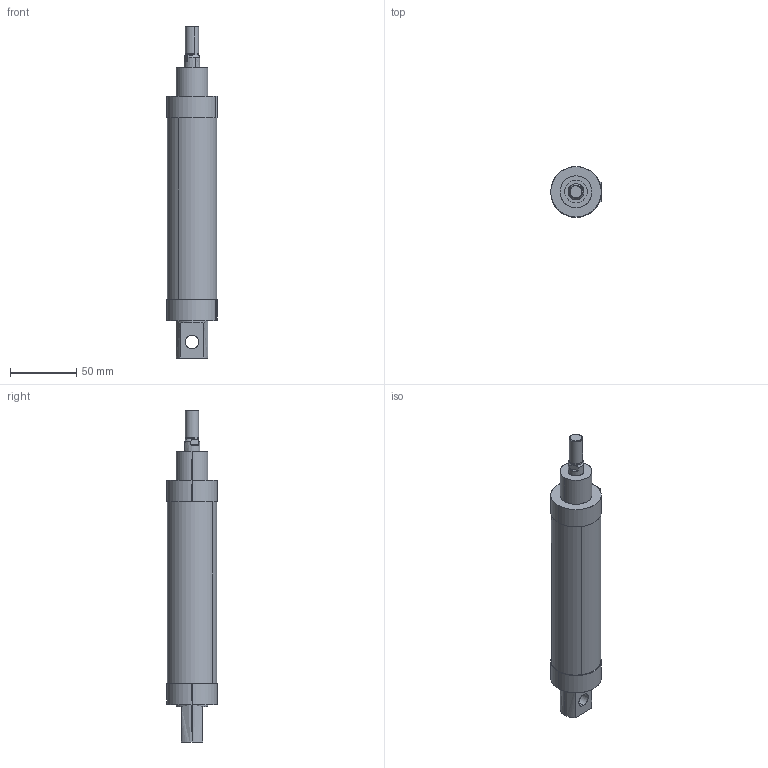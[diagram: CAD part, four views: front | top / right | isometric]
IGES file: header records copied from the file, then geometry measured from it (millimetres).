
Start section: SolidWorks IGES file using analytic representation for surfaces
Global section: file name: D:\ARICA 3D ÇÝZÝMLER\3D IGES\MAL-S\MAL6432S-32\MAL6432S-32X100-CYLINDER.IGS; native system: SolidWorks 2013; preprocessor: SolidWorks 2013; author: user; date: 150922.155135; units: millimetre
Bounding box: 38 x 38 x 250 mm (x, y, z)
Surface area: 61455.1 mm2 (no closed solid volume)
Topology: 0 solids, 0 shells, 108 faces, 2366 edges, 2366 vertices
Faces by surface type: revolution 59, bspline 49
